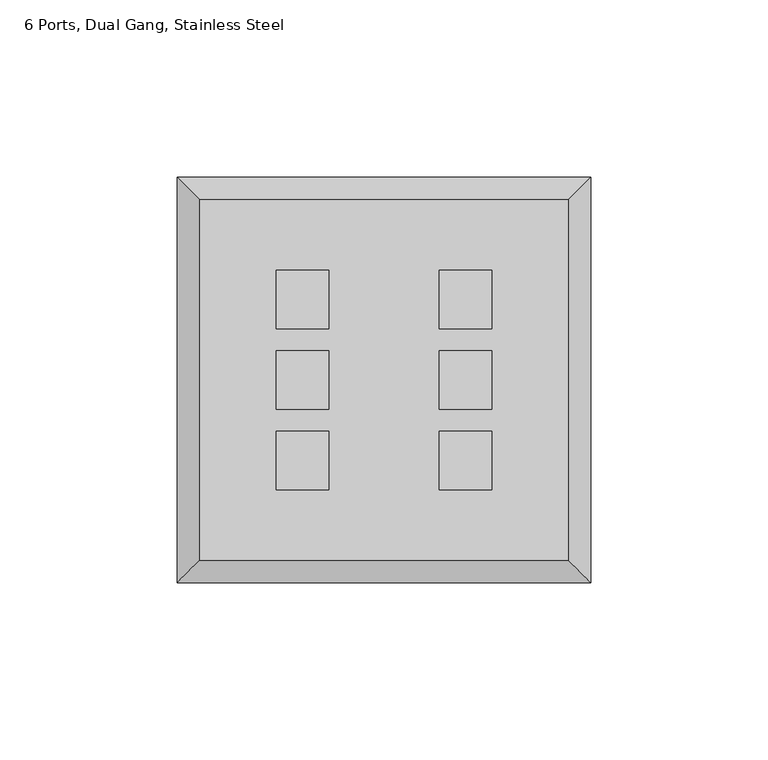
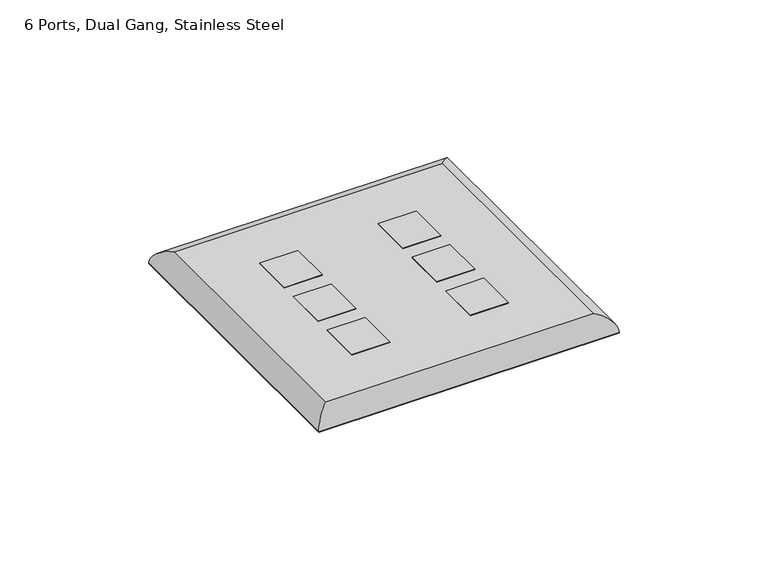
"""IFC4 building model written with IfcOpenShell, lengths in millimetres: electric appliance geometry, Data_Device-Work_Area-Leviton-QuickPort-Wallplate : 6 Ports, Dual Gang, Stainless Steel."""

from ifc_helpers import new_model, si_unit, frame, origin, origin_with_axes, place, context, project, spatial, polyline, ellipse_curve, outline, extrude, source, transform, mapped, element, save
from ifc_brep_helpers import plane_surface, cylinder_surface, advanced_brep


def electric_appliance_6_ports_dual_gang_stainless_steel_d117d8a4(model_context):
    return source(origin(), model_context, "Body", "SolidModel", [
        extrude(outline(polyline([(-38.6715, 16.4465), (-38.6715, -0.0635), (-53.4035, -0.0635), (-53.4035, 16.4465), (-38.6715, 16.4465)])), origin_with_axes(), (0.0, 0.0, 1.0), 6.35),
        extrude(outline(polyline([(-38.6715, 39.1795), (-38.6715, 22.6695), (-53.4035, 22.6695), (-53.4035, 39.1795), (-38.6715, 39.1795)])), origin_with_axes(), (0.0, 0.0, 1.0), 6.35),
        extrude(outline(polyline([(-38.6715, -6.2865), (-38.6715, -22.7965), (-53.4035, -22.7965), (-53.4035, -6.2865), (-38.6715, -6.2865)])), origin_with_axes(), (0.0, 0.0, 1.0), 6.35),
        extrude(outline(polyline([(7.3533, 16.4465), (7.3533, -0.0635), (-7.3787, -0.0635), (-7.3787, 16.4465), (7.3533, 16.4465)])), origin_with_axes(), (0.0, 0.0, 1.0), 6.35),
        extrude(outline(polyline([(7.3533, 39.1795), (7.3533, 22.6695), (-7.3787, 22.6695), (-7.3787, 39.1795), (7.3533, 39.1795)])), origin_with_axes(), (0.0, 0.0, 1.0), 6.35),
        extrude(outline(polyline([(7.3533, -6.2865), (7.3533, -22.7965), (-7.3787, -22.7965), (-7.3787, -6.2865), (7.3533, -6.2865)])), origin_with_axes(), (0.0, 0.0, 1.0), 6.35),
        advanced_brep(
        [(28.9179, -42.6085, 6.35), (28.9179, 58.9915, 6.35), (-74.9681, 58.9915, 6.35), (-74.9681, -42.6085, 6.35), (-53.4035, 39.1795, 6.35), (-38.6715, 39.1795, 6.35), (-38.6715, 22.6695, 6.35), (-53.4035, 22.6695, 6.35), (-53.4035, 16.4465, 6.35), (-38.6715, 16.4465, 6.35), (-38.6715, -0.0635, 6.35), (-53.4035, -0.0635, 6.35), (-53.4035, -6.2865, 6.35), (-38.6715, -6.2865, 6.35), (-38.6715, -22.7965, 6.35), (-53.4035, -22.7965, 6.35), (-7.3787, 39.1795, 6.35), (7.3533, 39.1795, 6.35), (7.3533, 22.6695, 6.35), (-7.3787, 22.6695, 6.35), (-7.3787, 16.4465, 6.35), (7.3533, 16.4465, 6.35), (7.3533, -0.0635, 6.35), (-7.3787, -0.0635, 6.35), (-7.3787, -6.2865, 6.35), (7.3533, -6.2865, 6.35), (7.3533, -22.7965, 6.35), (-7.3787, -22.7965, 6.35), (35.2679, 65.3415, 0.0), (35.2679, -48.9585, 0.0), (-81.3181, -48.9585, 0.0), (-81.3181, 65.3415, 0.0), (-38.6715, 39.1795, 0.0), (-53.4035, 39.1795, 0.0), (-53.4035, 22.6695, 0.0), (-38.6715, 22.6695, 0.0), (-38.6715, 16.4465, 0.0), (-53.4035, 16.4465, 0.0), (-53.4035, -0.0635, 0.0), (-38.6715, -0.0635, 0.0), (-38.6715, -6.2865, 0.0), (-53.4035, -6.2865, 0.0), (-53.4035, -22.7965, 0.0), (-38.6715, -22.7965, 0.0), (7.3533, 39.1795, 0.0), (-7.3787, 39.1795, 0.0), (-7.3787, 22.6695, 0.0), (7.3533, 22.6695, 0.0), (7.3533, 16.4465, 0.0), (-7.3787, 16.4465, 0.0), (-7.3787, -0.0635, 0.0), (7.3533, -0.0635, 0.0), (7.3533, -6.2865, 0.0), (-7.3787, -6.2865, 0.0), (-7.3787, -22.7965, 0.0), (7.3533, -22.7965, 0.0), (-81.3181, 65.3415, 0.254), (35.2679, 65.3415, 0.254), (-81.3181, -48.9585, 0.254), (35.2679, -48.9585, 0.254)],
        [
            (0, 1),
            (1, 2),
            (2, 3),
            (3, 0),
            (4, 5),
            (5, 6),
            (6, 7),
            (7, 4),
            (8, 9),
            (9, 10),
            (10, 11),
            (11, 8),
            (12, 13),
            (13, 14),
            (14, 15),
            (15, 12),
            (16, 17),
            (17, 18),
            (18, 19),
            (19, 16),
            (20, 21),
            (21, 22),
            (22, 23),
            (23, 20),
            (24, 25),
            (25, 26),
            (26, 27),
            (27, 24),
            (28, 29),
            (29, 30),
            (30, 31),
            (31, 28),
            (32, 33),
            (33, 34),
            (34, 35),
            (35, 32),
            (36, 37),
            (37, 38),
            (38, 39),
            (39, 36),
            (40, 41),
            (41, 42),
            (42, 43),
            (43, 40),
            (44, 45),
            (45, 46),
            (46, 47),
            (47, 44),
            (48, 49),
            (49, 50),
            (50, 51),
            (51, 48),
            (52, 53),
            (53, 54),
            (54, 55),
            (55, 52),
            (31, 56),
            (56, 57),
            (57, 28),
            (30, 58),
            (58, 56),
            (29, 59),
            (59, 58),
            (57, 59),
            (4, 33),
            (32, 5),
            (7, 34),
            (6, 35),
            (8, 37),
            (36, 9),
            (11, 38),
            (10, 39),
            (12, 41),
            (40, 13),
            (15, 42),
            (14, 43),
            (16, 45),
            (44, 17),
            (19, 46),
            (18, 47),
            (20, 49),
            (48, 21),
            (23, 50),
            (22, 51),
            (24, 53),
            (52, 25),
            (27, 54),
            (26, 55),
            (0, 59, ellipse_curve(frame((28.9179, -42.6085, -0.0052917), z_axis=(0.7071067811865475, 0.7071067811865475, 0.0), x_axis=(0.7071067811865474, -0.7071067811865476, 0.0)), 8.9877397, 6.3552917)),
            (57, 1, ellipse_curve(frame((28.9179, 58.9915, -0.0052917), z_axis=(0.7071067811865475, -0.7071067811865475, 0.0), x_axis=(-0.7071067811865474, -0.7071067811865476, 0.0)), 8.9877397, 6.3552917)),
            (3, 58, ellipse_curve(frame((-74.9681, -42.6085, -0.0052917), z_axis=(0.7071067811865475, -0.7071067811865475, 0.0), x_axis=(-0.7071067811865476, -0.7071067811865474, 0.0)), 8.9877397, 6.3552917)),
            (2, 56, ellipse_curve(frame((-74.9681, 58.9915, -0.0052917), z_axis=(-0.7071067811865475, -0.7071067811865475, 0.0), x_axis=(-0.7071067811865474, 0.7071067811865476, 0.0)), 8.9877397, 6.3552917)),
        ],
        [
            plane_surface(frame((-81.3181, 65.3415, 6.35), z_axis=(0.0, 0.0, 1.0), x_axis=(-1.0, 0.0, 0.0))),
            plane_surface(frame((-81.3181, 65.3415, 0.0), z_axis=(0.0, 0.0, -1.0), x_axis=(1.0, 0.0, 0.0))),
            plane_surface(frame((35.2679, 65.3415, 6.35), z_axis=(0.0, 1.0, 0.0), x_axis=(0.0, 0.0, -1.0))),
            plane_surface(frame((-81.3181, 65.3415, 6.35), z_axis=(-1.0, 0.0, 0.0), x_axis=(0.0, 0.0, -1.0))),
            plane_surface(frame((-81.3181, -48.9585, 6.35), z_axis=(0.0, -1.0, 0.0), x_axis=(0.0, 0.0, -1.0))),
            plane_surface(frame((35.2679, -48.9585, 6.35), z_axis=(1.0, 0.0, 0.0), x_axis=(0.0, 0.0, -1.0))),
            plane_surface(frame((-38.6715, 39.1795, 6.35), z_axis=(0.0, -1.0, 0.0), x_axis=(0.0, 0.0, -1.0))),
            plane_surface(frame((-53.4035, 39.1795, 6.35), z_axis=(1.0, 0.0, 0.0), x_axis=(0.0, 0.0, -1.0))),
            plane_surface(frame((-53.4035, 22.6695, 6.35), z_axis=(0.0, 1.0, 0.0), x_axis=(0.0, 0.0, -1.0))),
            plane_surface(frame((-38.6715, 22.6695, 6.35), z_axis=(-1.0, 0.0, 0.0), x_axis=(0.0, 0.0, -1.0))),
            plane_surface(frame((-38.6715, 16.4465, 6.35), z_axis=(0.0, -1.0, 0.0), x_axis=(0.0, 0.0, -1.0))),
            plane_surface(frame((-53.4035, 16.4465, 6.35), z_axis=(1.0, 0.0, 0.0), x_axis=(0.0, 0.0, -1.0))),
            plane_surface(frame((-53.4035, -0.0635, 6.35), z_axis=(0.0, 1.0, 0.0), x_axis=(0.0, 0.0, -1.0))),
            plane_surface(frame((-38.6715, -0.0635, 6.35), z_axis=(-1.0, 0.0, 0.0), x_axis=(0.0, 0.0, -1.0))),
            plane_surface(frame((-38.6715, -6.2865, 6.35), z_axis=(0.0, -1.0, 0.0), x_axis=(0.0, 0.0, -1.0))),
            plane_surface(frame((-53.4035, -6.2865, 6.35), z_axis=(1.0, 0.0, 0.0), x_axis=(0.0, 0.0, -1.0))),
            plane_surface(frame((-53.4035, -22.7965, 6.35), z_axis=(0.0, 1.0, 0.0), x_axis=(0.0, 0.0, -1.0))),
            plane_surface(frame((-38.6715, -22.7965, 6.35), z_axis=(-1.0, 0.0, 0.0), x_axis=(0.0, 0.0, -1.0))),
            plane_surface(frame((7.3533, 39.1795, 6.35), z_axis=(0.0, -1.0, 0.0), x_axis=(0.0, 0.0, -1.0))),
            plane_surface(frame((-7.3787, 39.1795, 6.35), z_axis=(1.0, 0.0, 0.0), x_axis=(0.0, 0.0, -1.0))),
            plane_surface(frame((-7.3787, 22.6695, 6.35), z_axis=(0.0, 1.0, 0.0), x_axis=(0.0, 0.0, -1.0))),
            plane_surface(frame((7.3533, 22.6695, 6.35), z_axis=(-1.0, 0.0, 0.0), x_axis=(0.0, 0.0, -1.0))),
            plane_surface(frame((7.3533, 16.4465, 6.35), z_axis=(0.0, -1.0, 0.0), x_axis=(0.0, 0.0, -1.0))),
            plane_surface(frame((-7.3787, 16.4465, 6.35), z_axis=(1.0, 0.0, 0.0), x_axis=(0.0, 0.0, -1.0))),
            plane_surface(frame((-7.3787, -0.0635, 6.35), z_axis=(0.0, 1.0, 0.0), x_axis=(0.0, 0.0, -1.0))),
            plane_surface(frame((7.3533, -0.0635, 6.35), z_axis=(-1.0, 0.0, 0.0), x_axis=(0.0, 0.0, -1.0))),
            plane_surface(frame((7.3533, -6.2865, 6.35), z_axis=(0.0, -1.0, 0.0), x_axis=(0.0, 0.0, -1.0))),
            plane_surface(frame((-7.3787, -6.2865, 6.35), z_axis=(1.0, 0.0, 0.0), x_axis=(0.0, 0.0, -1.0))),
            plane_surface(frame((-7.3787, -22.7965, 6.35), z_axis=(0.0, 1.0, 0.0), x_axis=(0.0, 0.0, -1.0))),
            plane_surface(frame((7.3533, -22.7965, 6.35), z_axis=(-1.0, 0.0, 0.0), x_axis=(0.0, 0.0, -1.0))),
            cylinder_surface(frame((28.9179, 65.3415, -0.0052917), z_axis=(0.0, -1.0, 0.0), x_axis=(1.0, 0.0, 0.0)), 6.3552917),
            cylinder_surface(frame((35.2679, -42.6085, -0.0052917), z_axis=(-1.0, 0.0, 0.0), x_axis=(0.0, -1.0, 0.0)), 6.3552917),
            cylinder_surface(frame((-74.9681, -48.9585, -0.0052917), z_axis=(0.0, 1.0, 0.0), x_axis=(-1.0, 0.0, 0.0)), 6.3552917),
            cylinder_surface(frame((-81.3181, 58.9915, -0.0052917), z_axis=(1.0, 0.0, 0.0), x_axis=(0.0, 1.0, 0.0)), 6.3552917),
        ],
        [
            (0, [[1, 2, 3, 4], [5, 6, 7, 8], [9, 10, 11, 12], [13, 14, 15, 16], [17, 18, 19, 20], [21, 22, 23, 24], [25, 26, 27, 28]]),
            (1, [[29, 30, 31, 32], [33, 34, 35, 36], [37, 38, 39, 40], [41, 42, 43, 44], [45, 46, 47, 48], [49, 50, 51, 52], [53, 54, 55, 56]]),
            (2, [[-32, 57, 58, 59]]),
            (3, [[-31, 60, 61, -57]]),
            (4, [[-30, 62, 63, -60]]),
            (5, [[-29, -59, 64, -62]]),
            (6, [[65, -33, 66, -5]]),
            (7, [[-65, -8, 67, -34]]),
            (8, [[-67, -7, 68, -35]]),
            (9, [[-66, -36, -68, -6]]),
            (10, [[69, -37, 70, -9]]),
            (11, [[-69, -12, 71, -38]]),
            (12, [[-71, -11, 72, -39]]),
            (13, [[-70, -40, -72, -10]]),
            (14, [[73, -41, 74, -13]]),
            (15, [[-73, -16, 75, -42]]),
            (16, [[-75, -15, 76, -43]]),
            (17, [[-74, -44, -76, -14]]),
            (18, [[77, -45, 78, -17]]),
            (19, [[-77, -20, 79, -46]]),
            (20, [[-79, -19, 80, -47]]),
            (21, [[-78, -48, -80, -18]]),
            (22, [[81, -49, 82, -21]]),
            (23, [[-81, -24, 83, -50]]),
            (24, [[-83, -23, 84, -51]]),
            (25, [[-82, -52, -84, -22]]),
            (26, [[85, -53, 86, -25]]),
            (27, [[-85, -28, 87, -54]]),
            (28, [[-87, -27, 88, -55]]),
            (29, [[-86, -56, -88, -26]]),
            (30, [[89, -64, 90, -1]]),
            (31, [[-89, -4, 91, -63]]),
            (32, [[-91, -3, 92, -61]]),
            (33, [[-90, -58, -92, -2]]),
        ],
    ),
        extrude(outline(polyline([(35.0139, 65.0875), (35.0139, -48.7045), (-81.0641, -48.7045), (-81.0641, 65.0875), (35.0139, 65.0875)]), holes=[polyline([(-38.6715, 39.1795), (-53.4035, 39.1795), (-53.4035, 22.6695), (-38.6715, 22.6695), (-38.6715, 39.1795)]), polyline([(-38.6715, 16.4465), (-53.4035, 16.4465), (-53.4035, -0.0635), (-38.6715, -0.0635), (-38.6715, 16.4465)]), polyline([(-38.6715, -6.2865), (-53.4035, -6.2865), (-53.4035, -22.7965), (-38.6715, -22.7965), (-38.6715, -6.2865)]), polyline([(7.3533, 39.1795), (-7.3787, 39.1795), (-7.3787, 22.6695), (7.3533, 22.6695), (7.3533, 39.1795)]), polyline([(7.3533, 16.4465), (-7.3787, 16.4465), (-7.3787, -0.0635), (7.3533, -0.0635), (7.3533, 16.4465)]), polyline([(7.3533, -6.2865), (-7.3787, -6.2865), (-7.3787, -22.7965), (7.3533, -22.7965), (7.3533, -6.2865)])]), origin_with_axes(), (0.0, 0.0, 1.0), 0.254),
    ])


if __name__ == "__main__":
    model = new_model("IFC4")
    model_context = context("Model", 3, world=origin())
    ifc_project = project(units=[si_unit("LENGTHUNIT", "METRE", prefix="MILLI")], contexts=[model_context])
    site = spatial("IfcSite", under=ifc_project)
    building = spatial("IfcBuilding", under=site)
    placement = place(None, origin())
    electric_appliance_6_ports_dual_gang_stainless_steel_shape = electric_appliance_6_ports_dual_gang_stainless_steel_d117d8a4(model_context)
    element("IfcElectricAppliance", 1, ObjectType="Data_Device-Work_Area-Leviton-QuickPort-Wallplate : 6 Ports, Dual Gang, Stainless Steel", at=placement, inside=building, context=model_context, shape_type="MappedRepresentation", body=[
        mapped(electric_appliance_6_ports_dual_gang_stainless_steel_shape, transform((0.0, 0.0, 0.0), x_axis=(1.0, 0.0, 0.0), y_axis=(0.0, 1.0, 0.0), z_axis=(0.0, 0.0, 1.0))),
    ])
    save(model, "model.ifc")
